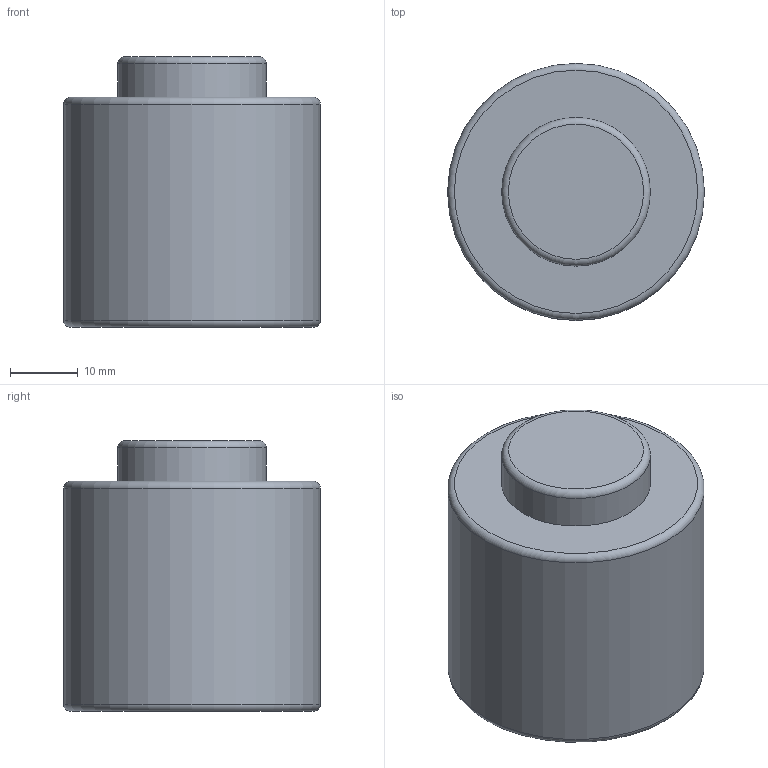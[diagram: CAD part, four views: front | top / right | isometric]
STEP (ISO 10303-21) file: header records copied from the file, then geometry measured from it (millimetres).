
FILE_DESCRIPTION(/* description */ (''),/* implementation_level */ '2;1');
FILE_NAME(/* name */ 'NV5-SMLX.38x5.stp',/* time_stamp */ '2018-08-31T16:08:35+02:00',/* author */ (''),/* organization */ (''),/* preprocessor_version */ 'ST-DEVELOPER v16',/* originating_system */ 'SIEMENS PLM Software NX 10.0',/* authorisation */ '');
FILE_SCHEMA (('AUTOMOTIVE_DESIGN { 1 0 10303 214 3 1 1 1 }'));
Length unit declared in the file: millimetre
Products named in the file (1): NV5-SMLX.38x5
Bounding box: 38 x 38 x 40 mm (x, y, z)
Volume: 40169.7 mm3; surface area: 6956.2 mm2
Topology: 1 solids, 1 shells, 10 faces, 18 edges, 11 vertices
Faces by surface type: cylinder 3, torus 3, plane 3, cone 1
Full cylindrical faces by diameter (mm): 6.8 x1, 22 x1, 38 x1
Entity records: 222 total; most frequent: DIRECTION 40, CARTESIAN_POINT 30, AXIS2_PLACEMENT_3D 20, FACE_BOUND 18, EDGE_LOOP 18, ORIENTED_EDGE 18, ADVANCED_FACE 10, VERTEX_POINT 10
